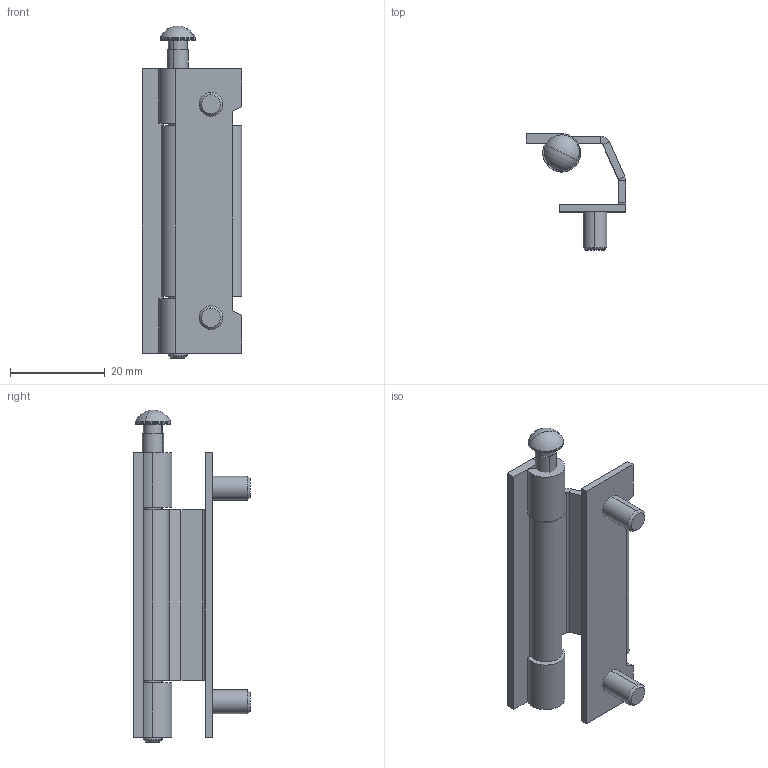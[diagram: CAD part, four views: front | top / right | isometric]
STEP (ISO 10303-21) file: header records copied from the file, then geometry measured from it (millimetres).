
FILE_DESCRIPTION (( 'STEP AP203' ), '1' );
FILE_NAME ('SK2-033-1SRDZ.STEP', '2019-08-06T02:47:48', ( 'admin' ), ( 'Microsoft' ), 'SwSTEP 2.0', 'SolidWorks 2018', '' );
FILE_SCHEMA (( 'CONFIG_CONTROL_DESIGN' ));
Length unit declared in the file: millimetre
Products named in the file (4): SK2-033-1SRDZ-F1; SK2-033-1SRDZ-F2; SK2-033-1SRDZ-F3; SK2-033-1SRDZ
Assembly tree (3 placements, depth 2):
  SK2-033-1SRDZ
    SK2-033-1SRDZ-F1
    SK2-033-1SRDZ-F2
    SK2-033-1SRDZ-F3
Bounding box: 21 x 24.5 x 70 mm (x, y, z)
Volume: 5916.3 mm3; surface area: 7880.4 mm2
Topology: 6 solids, 6 shells, 119 faces, 258 edges, 157 vertices
Faces by surface type: plane 59, cylinder 48, cone 6, torus 4, sphere 2
Entity records: 3642 total; most frequent: DIRECTION 622, CARTESIAN_POINT 540, ORIENTED_EDGE 516, EDGE_CURVE 258, AXIS2_PLACEMENT_3D 239, VERTEX_POINT 157, LINE 144, VECTOR 144
